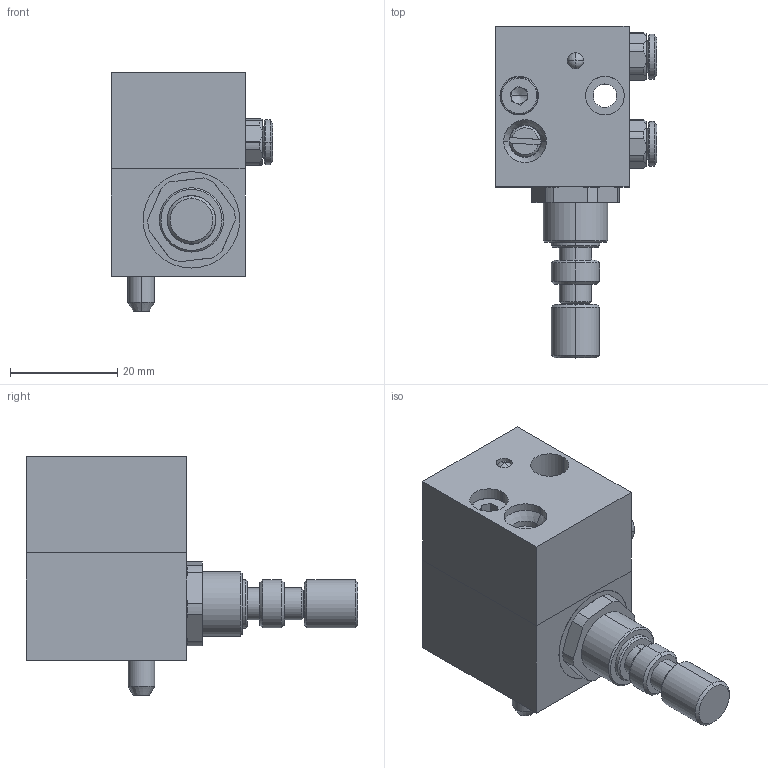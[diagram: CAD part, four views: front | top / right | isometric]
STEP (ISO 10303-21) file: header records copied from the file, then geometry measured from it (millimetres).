
FILE_DESCRIPTION (( 'STEP AP203' ), '1' );
FILE_NAME ('LMV100-C04.STEP', '2023-01-05T12:10:28', ( '' ), ( '' ), 'SwSTEP 2.0', 'SolidWorks 2019', '' );
FILE_SCHEMA (( 'CONFIG_CONTROL_DESIGN' ));
Length unit declared in the file: millimetre
Products named in the file (1): LMV100-C04
Bounding box: 30.2 x 61.92 x 44.6 mm (x, y, z)
Volume: 30631.8 mm3; surface area: 11649.8 mm2
Topology: 6 solids, 6 shells, 429 faces, 1086 edges, 687 vertices
Faces by surface type: cylinder 209, plane 100, cone 82, torus 26, bspline 8, sphere 4
Entity records: 13714 total; most frequent: CARTESIAN_POINT 2999, DIRECTION 2439, ORIENTED_EDGE 2152, EDGE_CURVE 1076, AXIS2_PLACEMENT_3D 1017, VERTEX_POINT 683, CIRCLE 595, EDGE_LOOP 463
